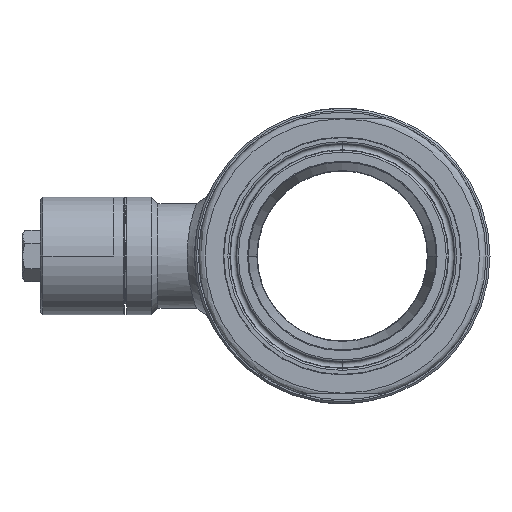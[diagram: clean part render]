
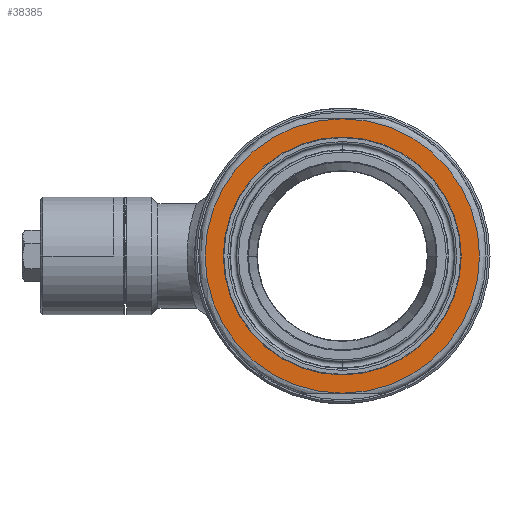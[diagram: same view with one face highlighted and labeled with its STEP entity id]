
A CAD part, left-side view. The second image highlights one B-rep face of the part: STEP entity #38385.
In plain terms, the highlighted planar face has unit normal (-1, 0, 0).
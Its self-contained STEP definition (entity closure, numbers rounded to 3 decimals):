
#5008=CARTESIAN_POINT('',(-56.,0.,0.));
#5009=DIRECTION('',(-1.,0.,0.));
#5010=DIRECTION('',(0.,0.,-1.));
#5011=AXIS2_PLACEMENT_3D('',#5008,#5009,#5010);
#5016=CARTESIAN_POINT('',(-56.,0.,0.));
#5017=DIRECTION('',(-1.,0.,0.));
#5018=DIRECTION('',(0.,0.,1.));
#5019=AXIS2_PLACEMENT_3D('',#5016,#5017,#5018);
#5031=CARTESIAN_POINT('',(-56.,0.,52.5));
#5165=CARTESIAN_POINT('',(-56.,0.,-52.5));
#5238=CARTESIAN_POINT('',(-56.,0.,0.));
#5239=DIRECTION('',(1.,0.,0.));
#5240=DIRECTION('',(0.,1.,0.));
#5241=AXIS2_PLACEMENT_3D('',#5238,#5239,#5240);
#5270=CARTESIAN_POINT('',(-56.,0.,0.));
#5271=DIRECTION('',(-1.,0.,0.));
#5272=DIRECTION('',(0.,1.,0.));
#5273=AXIS2_PLACEMENT_3D('',#5270,#5271,#5272);
#34420=CARTESIAN_POINT('',(-56.,42.25,0.));
#34421=CARTESIAN_POINT('',(-56.,-42.25,0.));
#34422=VERTEX_POINT('',#34420);
#34423=VERTEX_POINT('',#34421);
#34437=VERTEX_POINT('',#5165);
#34479=VERTEX_POINT('',#5031);
#38369=CARTESIAN_POINT('',(-56.,0.,0.));
#38370=DIRECTION('',(-1.,0.,0.));
#38371=DIRECTION('',(0.,-1.,0.));
#38372=AXIS2_PLACEMENT_3D('',#38369,#38370,#38371);
#38373=PLANE('',#38372);
#38374=ORIENTED_EDGE('',*,*,#38351,.F.);
#38376=ORIENTED_EDGE('',*,*,#38375,.F.);
#38377=EDGE_LOOP('',(#38374,#38376));
#38378=FACE_OUTER_BOUND('',#38377,.F.);
#38380=ORIENTED_EDGE('',*,*,#38379,.F.);
#38382=ORIENTED_EDGE('',*,*,#38381,.T.);
#38383=EDGE_LOOP('',(#38380,#38382));
#38384=FACE_BOUND('',#38383,.F.);
#38385=ADVANCED_FACE('',(#38378,#38384),#38373,.T.);
#5012=CIRCLE('',#5011,52.5);
#5020=CIRCLE('',#5019,52.5);
#5242=CIRCLE('',#5241,42.25);
#5274=CIRCLE('',#5273,42.25);
#38351=EDGE_CURVE('',#34437,#34479,#5012,.T.);
#38375=EDGE_CURVE('',#34479,#34437,#5020,.T.);
#38379=EDGE_CURVE('',#34422,#34423,#5242,.T.);
#38381=EDGE_CURVE('',#34422,#34423,#5274,.T.);
